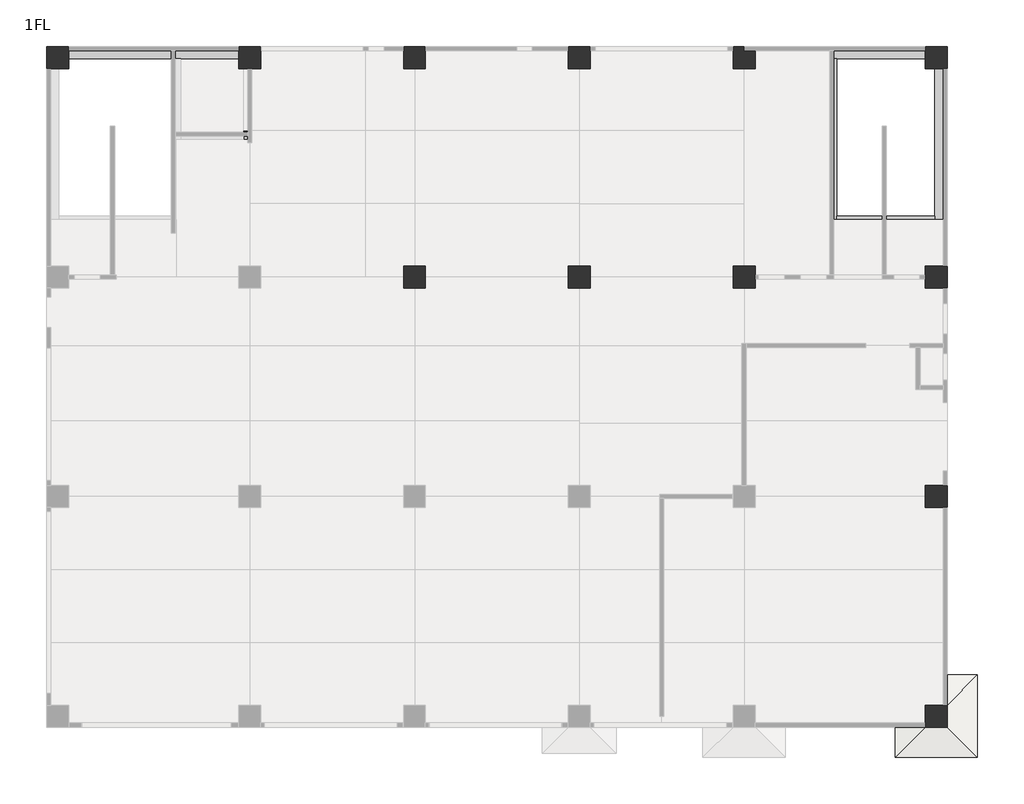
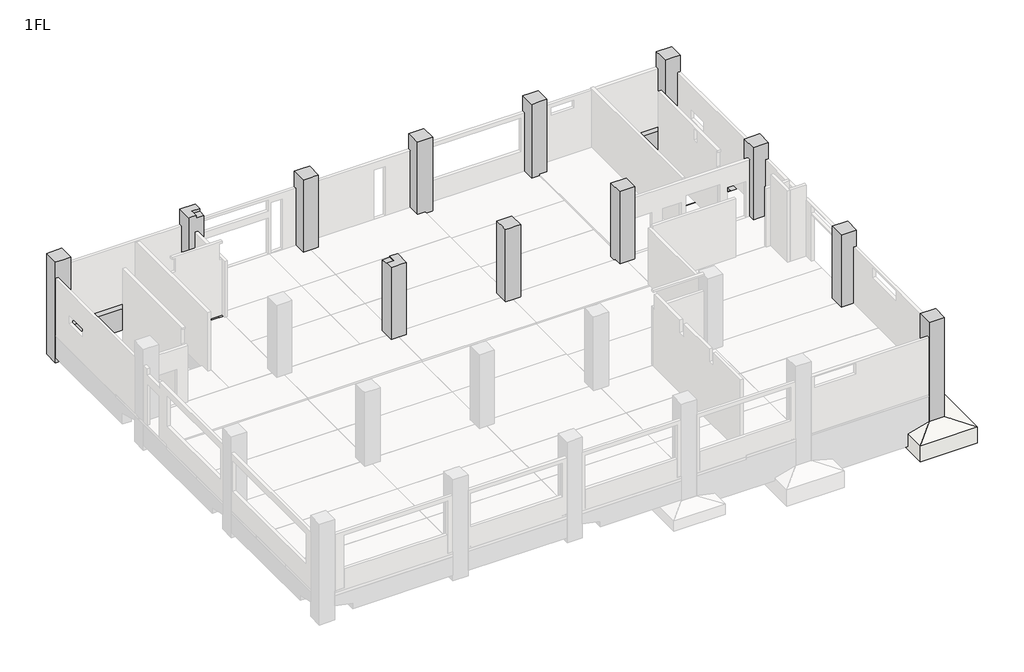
# One storey, part 4 of 4: 25 beams, 12 columns, 1 slab.
"""IFC4 building model written with IfcOpenShell, lengths in millimetres."""

import ifcopenshell
import ifcopenshell.guid

model = None  # the IFC model being written
_history = None  # IfcOwnerHistory: only IFC2X3 demands one
_inside = {}  # id of a spatial element -> (the spatial element, [elements in it])
_under = {}  # id of a project, library or spatial element -> (it, [spatial elements below it])
_declared = {}  # id of a project -> (the project, [libraries it declares])
_typed = {}  # id of a type object -> (the type object, [elements of that type])
_made_of = {}  # id of a material, layer set ... -> (it, [elements and type objects made of it])


def new_model(schema):
    """Start an empty IFC model of exactly this schema.

    Asked for "IFC4X3", IfcOpenShell would pick the latest addendum, in which some entities
    have other attributes; the version numbers below select the first issue.
    IFC2X3 requires an IfcOwnerHistory on every rooted entity: one is made here for all.
    """
    global model, _history
    if schema == "IFC4X3":
        model = ifcopenshell.file(schema_version=(4, 3, 0, 0))
    else:
        model = ifcopenshell.file(schema=schema)
    _inside.clear()
    _under.clear()
    _declared.clear()
    _typed.clear()
    _made_of.clear()
    _history = None
    if model.schema == "IFC2X3":
        org = make("IfcOrganization", Name="unknown")
        user = make(
            "IfcPersonAndOrganization",
            ThePerson=make("IfcPerson", FamilyName="unknown"),
            TheOrganization=org,
        )
        app = make(
            "IfcApplication",
            ApplicationDeveloper=org,
            Version="unknown",
            ApplicationFullName="unknown",
            ApplicationIdentifier="unknown",
        )
        _history = make(
            "IfcOwnerHistory",
            OwningUser=user,
            OwningApplication=app,
            ChangeAction="ADDED",
            CreationDate=0,
        )
    return model


def make(cls, **values):
    """One entity of the class cls with the attributes given. An attribute that is None is left unset."""
    return model.create_entity(
        cls, **{name: value for name, value in values.items() if value is not None}
    )


def rooted(cls, **values):
    """An entity with a GlobalId (a new one), such as an element, a storey or a relation."""
    return make(cls, GlobalId=ifcopenshell.guid.new(), OwnerHistory=_history, **values)


def si_unit(unit_type, name, prefix=None):
    """IfcSIUnit, for example si_unit("LENGTHUNIT", "METRE", prefix="MILLI")."""
    return make("IfcSIUnit", UnitType=unit_type, Prefix=prefix, Name=name)


def assignment(units):
    """IfcUnitAssignment: the units of a project."""
    return None if units is None else make("IfcUnitAssignment", Units=units)


def point(xyz):
    """IfcCartesianPoint."""
    return None if xyz is None else make("IfcCartesianPoint", Coordinates=xyz)


def direction(xyz):
    """IfcDirection."""
    return None if xyz is None else make("IfcDirection", DirectionRatios=xyz)


def frame(location, z_axis=None, x_axis=None):
    """IfcAxis2Placement3D, a coordinate frame: its origin and axes. An axis left out is left unset."""
    return make(
        "IfcAxis2Placement3D",
        Location=point(location),
        Axis=direction(z_axis),
        RefDirection=direction(x_axis),
    )


def origin():
    """The frame at (0, 0, 0) with its axes left unset."""
    return frame((0.0, 0.0, 0.0))


def place(relative_to, where):
    """IfcLocalPlacement: puts the frame where relative to a parent placement (None: the world)."""
    return make(
        "IfcLocalPlacement", PlacementRelTo=relative_to, RelativePlacement=where
    )


def context(
    kind, dimensions, precision=None, world=None, true_north=None, identifier=None
):
    """IfcGeometricRepresentationContext, for example the 3D "Model" context."""
    return make(
        "IfcGeometricRepresentationContext",
        ContextIdentifier=identifier,
        ContextType=kind,
        CoordinateSpaceDimension=dimensions,
        Precision=precision,
        WorldCoordinateSystem=world,
        TrueNorth=true_north,
    )


def project(units=None, contexts=None):
    """IfcProject with its units and contexts."""
    return rooted(
        "IfcProject",
        Name="project",
        RepresentationContexts=contexts,
        UnitsInContext=assignment(units),
    )


def spatial(cls, under=None, at=None, **own):
    """A site, building, storey or space (cls), placed at a placement, below another one or the project."""
    s = rooted(cls, ObjectPlacement=at, **own)
    if under is not None:
        _under.setdefault(under.id(), (under, []))[1].append(s)
    return s


def polyline(points):
    """IfcPolyline through the points."""
    return make("IfcPolyline", Points=[point(p) for p in points])


def outline(outer, holes=None, kind="AREA"):
    """IfcArbitraryClosedProfileDef: a profile drawn as a closed curve; with holes, ...WithVoids."""
    if holes is None:
        return make("IfcArbitraryClosedProfileDef", ProfileType=kind, OuterCurve=outer)
    return make(
        "IfcArbitraryProfileDefWithVoids",
        ProfileType=kind,
        OuterCurve=outer,
        InnerCurves=holes,
    )


def extrude(swept, where, along, depth):
    """IfcExtrudedAreaSolid: the profile swept, set in the frame where, extruded along a direction by depth."""
    return make(
        "IfcExtrudedAreaSolid",
        SweptArea=swept,
        Position=where,
        ExtrudedDirection=direction(along),
        Depth=depth,
    )


def faces_of(points, faces, orient=None, outer=None):
    """IfcFace entities. A face is a list of loops; a loop is a list of indices into points, from 0.

    orient and outer hold one flag for each loop. By default every Orientation is true, the
    first loop of a face is its IfcFaceOuterBound and the others are IfcFaceBound.
    """
    made = []
    for i, loops in enumerate(faces):
        bounds = []
        for j, loop in enumerate(loops):
            is_outer = j == 0 if outer is None else outer[i][j]
            bounds.append(
                make(
                    "IfcFaceOuterBound" if is_outer else "IfcFaceBound",
                    Bound=make("IfcPolyLoop", Polygon=[points[k] for k in loop]),
                    Orientation=True if orient is None else orient[i][j],
                )
            )
        made.append(make("IfcFace", Bounds=bounds))
    return made


def faceted_brep(points, faces, orient=None, outer=None, voids=None):
    """IfcFacetedBrep: a solid bounded by flat faces; with voids (closed shells), ...WithVoids."""
    shared = [point(p) for p in points]
    hull = make("IfcClosedShell", CfsFaces=faces_of(shared, faces, orient, outer))
    if voids is None:
        return make("IfcFacetedBrep", Outer=hull)
    return make(
        "IfcFacetedBrepWithVoids",
        Outer=hull,
        Voids=[
            make(cls, CfsFaces=faces_of(shared, fs, o, b)) for cls, fs, o, b in voids
        ],
    )


def shape(context_of_items, identifier, shape_type, items):
    """IfcShapeRepresentation: the items that make up one representation, for example the "Body"."""
    return make(
        "IfcShapeRepresentation",
        ContextOfItems=context_of_items,
        RepresentationIdentifier=identifier,
        RepresentationType=shape_type,
        Items=items,
    )


def made_of(thing, what):
    """Note that an element or type object is made of a material, layer set ...; save() writes the relation."""
    if what is not None:
        _made_of.setdefault(what.id(), (what, []))[1].append(thing)
    return thing


def element(
    cls,
    number,
    at=None,
    inside=None,
    cuts=None,
    type_object=None,
    material=None,
    context=None,
    identifier="Body",
    shape_type=None,
    held_by="IfcProductDefinitionShape",
    body=None,
    shapes=None,
    **own,
):
    """One element of the class cls, such as IfcWall. Its Tag is "e" and its number.

    at: its placement. inside: the storey or other place that contains it. cuts: it is an
    opening in that element (IfcRelVoidsElement). A single representation is given by context,
    identifier, shape_type and body (its items); several are given by shapes. held_by: the class
    of the entity that holds the representations. save() writes the other relations.
    """
    e = rooted(cls, Tag="e%d" % number, ObjectPlacement=at, **own)
    if body is not None:
        shapes = [shape(context, identifier, shape_type, body)]
    if shapes is not None:
        e.Representation = make(held_by, Representations=shapes)
    if inside is not None:
        _inside.setdefault(inside.id(), (inside, []))[1].append(e)
    if cuts is not None:
        rooted(
            "IfcRelVoidsElement", RelatingBuildingElement=cuts, RelatedOpeningElement=e
        )
    if type_object is not None:
        _typed.setdefault(type_object.id(), (type_object, []))[1].append(e)
    return made_of(e, material)


def aggregate(whole, parts):
    """IfcRelAggregates: a whole, such as a stair, and the parts it consists of."""
    return rooted("IfcRelAggregates", RelatingObject=whole, RelatedObjects=parts)


def save(model, path):
    """Write the relations noted so far, then the file.

    IfcRelAggregates (storeys below a building ...), IfcRelContainedInSpatialStructure (elements
    in a storey), IfcRelDefinesByType, IfcRelAssociatesMaterial and IfcRelDeclares: one each for
    every whole, place, type object, material and project.
    """
    for whole, parts in _under.values():
        aggregate(whole, parts)
    for where, things in _inside.values():
        rooted(
            "IfcRelContainedInSpatialStructure",
            RelatedElements=things,
            RelatingStructure=where,
        )
    for kind, things in _typed.values():
        rooted("IfcRelDefinesByType", RelatedObjects=things, RelatingType=kind)
    for what, things in _made_of.values():
        rooted("IfcRelAssociatesMaterial", RelatedObjects=things, RelatingMaterial=what)
    for by, libraries in _declared.values():
        rooted("IfcRelDeclares", RelatingContext=by, RelatedDefinitions=libraries)
    model.write(path)


model = new_model("IFC4")

# Units and contexts
model_context = context("Model", 3, world=origin())
ifc_project = project(units=[si_unit("LENGTHUNIT", "METRE", prefix="MILLI")], contexts=[model_context])

# Site, building, storey
site = spatial("IfcSite", under=ifc_project)
building = spatial("IfcBuilding", under=site)
storey = spatial("IfcBuildingStorey", under=building, Name="1FL", Elevation=0.0)

# Beams
placement = place(None, origin())
element("IfcBeam", 1, ObjectType="RC_B : B1", at=placement, inside=storey, context=model_context, shape_type="Brep", body=[
    faceted_brep([(12775.0, 18845.0, -850.0), (11375.0, 18845.0, -850.0), (11025.0, 18845.0, -850.0), (7225.0, 18845.0, -850.0), (7225.0, 18845.0, -160.0), (11025.0, 18845.0, -160.0), (11375.0, 18845.0, -160.0), (12775.0, 18845.0, -160.0), (7225.0, 18495.0, -850.0), (12775.0, 18495.0, -850.0), (11375.0, 18495.0, -850.0), (11025.0, 18495.0, -850.0), (12775.0, 18495.0, -160.0), (11375.0, 18495.0, -160.0), (11025.0, 18495.0, -160.0), (7225.0, 18495.0, -160.0)], [[[0, 1, 2, 3, 4, 5, 6, 7]], [[8, 3, 2, 1, 0, 9, 10, 11]], [[8, 11, 10, 9, 12, 13, 14, 15]], [[3, 8, 15, 4]], [[9, 0, 7, 12]], [[4, 15, 14, 13, 12, 7, 6, 5]]]),
])
element("IfcBeam", 2, ObjectType="RC_B : B1", at=placement, inside=storey, context=model_context, shape_type="Brep", body=[
    faceted_brep([(12775.0, 21515.0, -850.0), (11375.0, 21515.0, -850.0), (11025.0, 21515.0, -850.0), (7225.0, 21515.0, -850.0), (7225.0, 21515.0, -160.0), (11025.0, 21515.0, -160.0), (11375.0, 21515.0, -160.0), (12775.0, 21515.0, -160.0), (7225.0, 21165.0, -850.0), (12775.0, 21165.0, -850.0), (11375.0, 21165.0, -850.0), (11025.0, 21165.0, -850.0), (12775.0, 21165.0, -160.0), (11375.0, 21165.0, -160.0), (11025.0, 21165.0, -160.0), (7225.0, 21165.0, -160.0)], [[[0, 1, 2, 3, 4, 5, 6, 7]], [[8, 3, 2, 1, 0, 9, 10, 11]], [[8, 11, 10, 9, 12, 13, 14, 15]], [[3, 8, 15, 4]], [[9, 0, 7, 12]], [[4, 15, 14, 13, 12, 7, 6, 5]]]),
])
element("IfcBeam", 3, ObjectType="RC_B : B1", at=placement, inside=storey, context=model_context, shape_type="Brep", body=[
    faceted_brep([(19225.0, 21515.0, -850.0), (18775.0, 21515.0, -850.0), (13225.0, 21515.0, -850.0), (12775.0, 21515.0, -850.0), (12775.0, 21515.0, -160.0), (13000.0, 21515.0, -160.0), (13000.0, 21515.0, -100.0), (19000.0, 21515.0, -100.0), (19000.0, 21515.0, -160.0), (19000.0, 21515.0, -250.0), (19225.0, 21515.0, -250.0), (12775.0, 21165.0, -850.0), (19225.0, 21165.0, -850.0), (18775.0, 21165.0, -850.0), (13225.0, 21165.0, -850.0), (19225.0, 21165.0, -250.0), (19000.0, 21165.0, -250.0), (19000.0, 21165.0, -160.0), (18775.0, 21165.0, -160.0), (13225.0, 21165.0, -160.0), (12775.0, 21165.0, -160.0), (13000.0, 21340.0, -100.0), (19000.0, 21340.0, -100.0), (19000.0, 21328.0, -250.0), (19000.0, 21340.0, -160.0), (13000.0, 21340.0, -160.0)], [[[0, 1, 2, 3, 4, 5, 6, 7, 8, 9, 10]], [[11, 3, 2, 1, 0, 12, 13, 14]], [[11, 14, 13, 12, 15, 16, 17, 18, 19, 20]], [[21, 22, 7, 6]], [[3, 11, 20, 4]], [[16, 15, 10, 9, 23]], [[9, 8, 7, 22, 24, 17, 16, 23]], [[12, 0, 10, 15]], [[24, 25, 5, 4, 20, 19, 18, 17]], [[25, 24, 22, 21]], [[5, 25, 21, 6]]]),
])
element("IfcBeam", 4, ObjectType="RC_B : B1", at=placement, inside=storey, context=model_context, shape_type="SweptSolid", body=[
    extrude(outline(polyline([(11375.0, 16225.0), (11025.0, 16225.0), (11025.0, 18495.0), (11375.0, 18495.0), (11375.0, 16225.0)])), frame((0.0, 0.0, -850.0), z_axis=(0.0, 0.0, 1.0), x_axis=(1.0, 0.0, 0.0)), (0.0, 0.0, 1.0), 690.0),
    extrude(outline(polyline([(11025.0, 23950.0), (11375.0, 23950.0), (11375.0, 21515.0), (11025.0, 21515.0), (11025.0, 23950.0)])), frame((0.0, 0.0, -850.0), z_axis=(0.0, 0.0, 1.0), x_axis=(1.0, 0.0, 0.0)), (0.0, 0.0, 1.0), 690.0),
    extrude(outline(polyline([(11375.0, 18845.0), (11025.0, 18845.0), (11025.0, 21165.0), (11375.0, 21165.0), (11375.0, 18845.0)])), frame((0.0, 0.0, -850.0), z_axis=(0.0, 0.0, 1.0), x_axis=(1.0, 0.0, 0.0)), (0.0, 0.0, 1.0), 690.0),
])
element("IfcBeam", 5, ObjectType="RC_B : B1", at=placement, inside=storey, context=model_context, shape_type="SweptSolid", body=[
    extrude(outline(polyline([(13225.0, 18495.0), (13225.0, 18845.0), (18775.0, 18845.0), (18775.0, 18495.0), (13225.0, 18495.0)])), frame((0.0, 0.0, -850.0), z_axis=(0.0, 0.0, 1.0), x_axis=(1.0, 0.0, 0.0)), (0.0, 0.0, 1.0), 690.0),
])
element("IfcBeam", 6, ObjectType="RC_B : B2", at=placement, inside=storey, context=model_context, shape_type="SweptSolid", body=[
    extrude(outline(polyline([(19225.0, 18495.0), (19225.0, 18845.0), (24775.0, 18845.0), (24775.0, 18495.0), (19225.0, 18495.0)])), frame((0.0, 0.0, -850.0), z_axis=(0.0, 0.0, 1.0), x_axis=(1.0, 0.0, 0.0)), (0.0, 0.0, 1.0), 600.0),
])
element("IfcBeam", 7, ObjectType="RC_B : B2", at=placement, inside=storey, context=model_context, shape_type="SweptSolid", body=[
    extrude(outline(polyline([(19225.0, 21165.0), (19225.0, 21515.0), (24775.0, 21515.0), (24775.0, 21165.0), (19225.0, 21165.0)])), frame((0.0, 0.0, -850.0), z_axis=(0.0, 0.0, 1.0), x_axis=(1.0, 0.0, 0.0)), (0.0, 0.0, 1.0), 600.0),
])
element("IfcBeam", 8, ObjectType="RC_B : B3", at=placement, inside=storey, context=model_context, shape_type="SweptSolid", body=[
    extrude(outline(polyline([(18225.0, -100.0), (18225.0, -700.0), (17975.0, -700.0), (17975.0, -160.0), (18100.0, -160.0), (18100.0, -100.0), (18225.0, -100.0)])), frame((28374.0, 0.0, 0.0), z_axis=(1.0, 0.0, 0.0), x_axis=(0.0, 1.0, 0.0)), (0.0, 0.0, 1.0), 3576.0),
])
element("IfcBeam", 9, ObjectType="RC_B : B4", at=placement, inside=storey, context=model_context, shape_type="Brep", body=[
    faceted_brep([(28024.0, 16225.0, -850.0), (28024.0, 16225.0, -160.0), (28024.0, 23950.0, -160.0), (28024.0, 23950.0, -850.0), (28374.0, 16225.0, -850.0), (28374.0, 23950.0, -850.0), (28374.0, 23950.0, -100.0), (28374.0, 18225.0, -100.0), (28374.0, 18100.0, -100.0), (28374.0, 18100.0, -160.0), (28374.0, 17975.0, -160.0), (28374.0, 16225.0, -160.0), (28199.0, 23950.0, -100.0), (28199.0, 18100.0, -100.0), (28199.0, 23950.0, -160.0), (28199.0, 18100.0, -160.0)], [[[0, 1, 2, 3]], [[4, 0, 3, 5]], [[5, 6, 7, 8, 9, 10, 11, 4]], [[6, 12, 13, 8, 7]], [[0, 4, 11, 1]], [[5, 3, 2, 14, 12, 6]], [[2, 1, 11, 10, 9, 15, 14]], [[12, 14, 15, 13]], [[15, 9, 8, 13]]]),
])
element("IfcBeam", 10, ObjectType="RC_B : FG1", at=placement, inside=storey, context=model_context, shape_type="Brep", body=[
    faceted_brep([(6600.0, 24400.0, -100.0), (6600.0, 24400.0, -1300.0), (1500.0, 24400.0, -1300.0), (1500.0, 24400.0, -700.0), (400.0, 24400.0, -400.0), (400.0, 24400.0, -100.0), (6600.0, 23950.0, -1300.0), (1500.0, 23950.0, -1300.0), (6600.0, 23950.0, -100.0), (4494.0, 23950.0, -100.0), (4144.0, 23950.0, -100.0), (400.0, 23950.0, -100.0), (400.0, 23950.0, -400.0), (1500.0, 23950.0, -700.0), (400.0, 24250.0, -100.0), (6600.0, 24250.0, -100.0)], [[[0, 1, 2, 3, 4, 5]], [[1, 6, 7, 2]], [[6, 8, 9, 10, 11, 12, 13, 7]], [[5, 14, 11, 10, 9, 8, 15, 0]], [[11, 14, 5, 4, 12]], [[1, 0, 15, 8, 6]], [[13, 3, 2, 7]], [[3, 13, 12, 4]]]),
])
element("IfcBeam", 11, ObjectType="RC_B : FG11", at=placement, inside=storey, context=model_context, shape_type="Brep", body=[
    faceted_brep([(31950.0, 16400.0, -1300.0), (31950.0, 16400.0, -160.0), (31950.0, 17975.0, -160.0), (31950.0, 18100.0, -160.0), (31950.0, 18100.0, -100.0), (31950.0, 18225.0, -100.0), (31950.0, 23600.0, -100.0), (31950.0, 23600.0, -1300.0), (32400.0, 16400.0, -1300.0), (32400.0, 23600.0, -1300.0), (32400.0, 16400.0, -160.0), (32400.0, 23600.0, -100.0), (32400.0, 18100.0, -100.0), (32400.0, 18100.0, -160.0), (32250.0, 18100.0, -100.0), (32250.0, 23600.0, -100.0)], [[[0, 1, 2, 3, 4, 5, 6, 7]], [[8, 0, 7, 9]], [[10, 8, 9, 11, 12, 13]], [[4, 14, 12, 11, 15, 6, 5]], [[1, 0, 8, 10]], [[13, 3, 2, 1, 10]], [[3, 13, 12, 14, 4]], [[7, 6, 15, 11, 9]]]),
])
element("IfcBeam", 12, ObjectType="RC_B : FG13", at=placement, inside=storey, context=model_context, shape_type="Brep", body=[
    faceted_brep([(6775.0, 16400.0, -160.0), (6775.0, 21000.0, -160.0), (6775.0, 21000.0, -100.0), (6775.0, 21125.0, -100.0), (6775.0, 21333.0, -100.0), (6775.0, 21333.0, -160.0), (6775.0, 23600.0, -160.0), (6775.0, 23600.0, -1450.0), (6775.0, 22500.0, -1750.0), (6775.0, 22500.0, -1950.0), (6775.0, 17650.0, -1950.0), (6775.0, 17650.0, -1250.0), (6775.0, 16400.0, -950.0), (7000.0, 17650.0, -1950.0), (7000.0, 22500.0, -1950.0), (7225.0, 23600.0, -160.0), (7225.0, 21515.0, -160.0), (7225.0, 21165.0, -160.0), (7225.0, 18845.0, -160.0), (7225.0, 18495.0, -160.0), (7225.0, 16400.0, -160.0), (7225.0, 16400.0, -950.0), (7225.0, 17650.0, -1250.0), (7225.0, 17650.0, -1750.0), (7225.0, 22500.0, -1750.0), (7225.0, 23600.0, -1450.0), (7000.0, 21000.0, -100.0), (7000.0, 21333.0, -100.0), (7000.0, 16400.0, -160.0), (7000.0, 17650.0, -1750.0), (7000.0, 22500.0, -1750.0), (7000.0, 21000.0, -160.0), (7000.0, 21333.0, -160.0)], [[[0, 1, 2, 3, 4, 5, 6, 7, 8, 9, 10, 11, 12]], [[13, 10, 9, 14]], [[15, 16, 17, 18, 19, 20, 21, 22, 23, 24, 25]], [[2, 26, 27, 4, 3]], [[20, 28, 0, 12, 21]], [[23, 29, 30, 24]], [[29, 13, 14, 30]], [[31, 1, 0, 28, 20, 19, 18, 17, 16, 15, 6, 5, 32]], [[1, 31, 26, 2]], [[31, 32, 27, 26]], [[27, 32, 5, 4]], [[7, 6, 15, 25]], [[22, 11, 10, 13, 29, 23]], [[11, 22, 21, 12]], [[8, 30, 14, 9]], [[30, 8, 7, 25, 24]]]),
])
element("IfcBeam", 13, ObjectType="RC_B : FG13", at=placement, inside=storey, context=model_context, shape_type="Brep", body=[
    faceted_brep([(12775.0, 23600.0, -160.0), (12775.0, 23600.0, -1750.0), (12775.0, 17650.0, -1750.0), (12775.0, 17650.0, -1250.0), (12775.0, 16400.0, -950.0), (12775.0, 16400.0, -160.0), (12775.0, 18495.0, -160.0), (12775.0, 18845.0, -160.0), (12775.0, 21165.0, -160.0), (12775.0, 21165.0, -850.0), (12775.0, 21515.0, -850.0), (12775.0, 21515.0, -160.0), (13000.0, 23600.0, -1950.0), (13225.0, 23600.0, -1950.0), (13225.0, 17650.0, -1950.0), (13000.0, 17650.0, -1950.0), (13225.0, 23600.0, -160.0), (13225.0, 21515.0, -160.0), (13225.0, 21515.0, -850.0), (13225.0, 21165.0, -850.0), (13225.0, 21165.0, -160.0), (13225.0, 18845.0, -160.0), (13225.0, 18495.0, -160.0), (13225.0, 16400.0, -160.0), (13225.0, 16400.0, -950.0), (13225.0, 17650.0, -1250.0), (13000.0, 16400.0, -160.0), (13000.0, 23600.0, -1750.0), (13000.0, 17650.0, -1750.0), (13000.0, 21515.0, -160.0)], [[[0, 1, 2, 3, 4, 5, 6, 7, 8, 9, 10, 11]], [[12, 13, 14, 15]], [[13, 16, 17, 18, 19, 20, 21, 22, 23, 24, 25, 14]], [[23, 26, 5, 4, 24]], [[1, 27, 28, 2]], [[27, 12, 15, 28]], [[5, 26, 23, 22, 21, 20, 8, 7, 6]], [[16, 13, 12, 27, 1, 0]], [[25, 3, 2, 28, 15, 14]], [[3, 25, 24, 4]], [[10, 18, 17, 29, 11]], [[18, 10, 9, 19]], [[19, 9, 8, 20]], [[16, 0, 11, 29, 17]]]),
])
element("IfcBeam", 14, ObjectType="RC_B : FG13", at=placement, inside=storey, context=model_context, shape_type="Brep", body=[
    faceted_brep([(18775.0, 23600.0, -1750.0), (18775.0, 17650.0, -1750.0), (18775.0, 17650.0, -1250.0), (18775.0, 16400.0, -950.0), (18775.0, 16400.0, -160.0), (18775.0, 18495.0, -160.0), (18775.0, 18845.0, -160.0), (18775.0, 21165.0, -160.0), (18775.0, 21165.0, -850.0), (18775.0, 21515.0, -850.0), (18775.0, 21515.0, -160.0), (18775.0, 23600.0, -160.0), (19225.0, 23600.0, -1750.0), (19225.0, 23600.0, -250.0), (19225.0, 21515.0, -250.0), (19225.0, 21515.0, -850.0), (19225.0, 21165.0, -850.0), (19225.0, 21165.0, -250.0), (19225.0, 18845.0, -250.0), (19225.0, 18495.0, -250.0), (19225.0, 16400.0, -250.0), (19225.0, 16400.0, -950.0), (19225.0, 17650.0, -1250.0), (19225.0, 17650.0, -1750.0), (19000.0, 16400.0, -250.0), (19000.0, 16400.0, -160.0), (19000.0, 21165.0, -250.0), (19000.0, 18664.0, -250.0), (19000.0, 21165.0, -160.0), (19000.0, 18670.0, -160.0), (19000.0, 23600.0, -160.0), (19000.0, 23600.0, -250.0), (19000.0, 21515.0, -160.0), (19000.0, 21515.0, -250.0)], [[[0, 1, 2, 3, 4, 5, 6, 7, 8, 9, 10, 11]], [[12, 13, 14, 15, 16, 17, 18, 19, 20, 21, 22, 23]], [[20, 24, 25, 4, 3, 21]], [[24, 20, 19, 18, 17, 26, 27]], [[25, 24, 27, 26, 28, 29]], [[0, 12, 23, 1]], [[13, 12, 0, 11, 30, 31]], [[22, 2, 1, 23]], [[2, 22, 21, 3]], [[30, 11, 10, 32]], [[9, 15, 14, 33, 32, 10]], [[15, 9, 8, 16]], [[16, 8, 7, 28, 26, 17]], [[13, 31, 33, 14]], [[31, 30, 32, 33]], [[4, 25, 29, 28, 7, 6, 5]]]),
])
element("IfcBeam", 15, ObjectType="RC_B : FG13", at=placement, inside=storey, context=model_context, shape_type="Brep", body=[
    faceted_brep([(24775.0, 16400.0, -250.0), (24775.0, 18495.0, -250.0), (24775.0, 18845.0, -250.0), (24775.0, 21165.0, -250.0), (24775.0, 21515.0, -250.0), (24775.0, 23600.0, -250.0), (24775.0, 23600.0, -1750.0), (24775.0, 17441.6666667, -1750.0), (24775.0, 16400.0, -1500.0), (25225.0, 23600.0, -1750.0), (25225.0, 23600.0, -160.0), (25225.0, 16400.0, -160.0), (25225.0, 16400.0, -1500.0), (25225.0, 17441.6666667, -1750.0), (25000.0, 16400.0, -250.0), (25000.0, 16400.0, -160.0), (25000.0, 18664.0, -250.0), (25000.0, 21328.0, -250.0), (25000.0, 23600.0, -250.0), (25000.0, 23600.0, -160.0)], [[[0, 1, 2, 3, 4, 5, 6, 7, 8]], [[9, 10, 11, 12, 13]], [[14, 0, 8, 12, 11, 15]], [[0, 14, 16, 17, 18, 5, 4, 3, 2, 1]], [[14, 15, 19, 18, 17, 16]], [[6, 9, 13, 7]], [[15, 11, 10, 19]], [[10, 9, 6, 5, 18, 19]], [[8, 7, 13, 12]]]),
])
element("IfcBeam", 16, ObjectType="RC_B : FG14", at=placement, inside=storey, context=model_context, shape_type="Brep", body=[
    faceted_brep([(31950.0, 400.0, -160.0), (31950.0, 2485.0, -160.0), (31950.0, 2835.0, -160.0), (31950.0, 5155.0, -160.0), (31950.0, 5505.0, -160.0), (31950.0, 7600.0, -160.0), (31950.0, 7600.0, -2300.0), (31950.0, 1500.0, -2300.0), (31950.0, 1500.0, -1800.0), (31950.0, 400.0, -1500.0), (32000.0, 7600.0, -2500.0), (32400.0, 7600.0, -2500.0), (32400.0, 1500.0, -2500.0), (32000.0, 1500.0, -2500.0), (32400.0, 7600.0, -160.0), (32400.0, 5328.0, -160.0), (32400.0, 2664.0, -160.0), (32400.0, 400.0, -160.0), (32400.0, 400.0, -1500.0), (32400.0, 1500.0, -1800.0), (32000.0, 7600.0, -2300.0), (32000.0, 1500.0, -2300.0)], [[[0, 1, 2, 3, 4, 5, 6, 7, 8, 9]], [[10, 11, 12, 13]], [[11, 14, 15, 16, 17, 18, 19, 12]], [[17, 0, 9, 18]], [[5, 14, 11, 10, 20, 6]], [[14, 5, 4, 3, 2, 1, 0, 17, 16, 15]], [[6, 20, 21, 7]], [[20, 10, 13, 21]], [[19, 8, 7, 21, 13, 12]], [[8, 19, 18, 9]]]),
])
element("IfcBeam", 17, ObjectType="RC_B : FG14", at=placement, inside=storey, context=model_context, shape_type="Brep", body=[
    faceted_brep([(31950.0, 8400.0, -160.0), (31950.0, 10575.0, -160.0), (31950.0, 10925.0, -160.0), (31950.0, 13325.0, -160.0), (31950.0, 13675.0, -160.0), (31950.0, 15600.0, -160.0), (31950.0, 15600.0, -2300.0), (31950.0, 9500.0, -2300.0), (31950.0, 9500.0, -1800.0), (31950.0, 8400.0, -1500.0), (32000.0, 15600.0, -2500.0), (32400.0, 15600.0, -2500.0), (32400.0, 9500.0, -2500.0), (32000.0, 9500.0, -2500.0), (32400.0, 15600.0, -160.0), (32400.0, 13496.0, -160.0), (32400.0, 10748.0, -160.0), (32400.0, 8400.0, -160.0), (32400.0, 8400.0, -1500.0), (32400.0, 9500.0, -1800.0), (32000.0, 15600.0, -2300.0), (32000.0, 9500.0, -2300.0)], [[[0, 1, 2, 3, 4, 5, 6, 7, 8, 9]], [[10, 11, 12, 13]], [[14, 15, 16, 17, 18, 19, 12, 11]], [[17, 0, 9, 18]], [[5, 14, 11, 10, 20, 6]], [[14, 5, 4, 3, 2, 1, 0, 17, 16, 15]], [[6, 20, 21, 7]], [[20, 10, 13, 21]], [[19, 8, 7, 21, 13, 12]], [[8, 19, 18, 9]]]),
])
element("IfcBeam", 18, ObjectType="RC_B : FG3", at=placement, inside=storey, context=model_context, shape_type="Brep", body=[
    faceted_brep([(12600.0, 16225.0, -1750.0), (7400.0, 16225.0, -1750.0), (7400.0, 16225.0, -160.0), (11025.0, 16225.0, -160.0), (11375.0, 16225.0, -160.0), (12600.0, 16225.0, -160.0), (7400.0, 16000.0, -1950.0), (12600.0, 16000.0, -1950.0), (12600.0, 15775.0, -1950.0), (7400.0, 15775.0, -1950.0), (12600.0, 15775.0, -160.0), (7400.0, 15775.0, -160.0), (7400.0, 16000.0, -1750.0), (12600.0, 16000.0, -1750.0)], [[[0, 1, 2, 3, 4, 5]], [[6, 7, 8, 9]], [[10, 11, 9, 8]], [[11, 2, 1, 12, 6, 9]], [[5, 10, 8, 7, 13, 0]], [[1, 0, 13, 12]], [[7, 6, 12, 13]], [[11, 10, 5, 4, 3, 2]]]),
])
element("IfcBeam", 19, ObjectType="RC_B : FG3", at=placement, inside=storey, context=model_context, shape_type="Brep", body=[
    faceted_brep([(18600.0, 16225.0, -1950.0), (13400.0, 16225.0, -1950.0), (13400.0, 16225.0, -160.0), (18600.0, 16225.0, -160.0), (13400.0, 15775.0, -1950.0), (18600.0, 15775.0, -1950.0), (18600.0, 15775.0, -160.0), (13400.0, 15775.0, -160.0), (13400.0, 16000.0, -160.0), (18600.0, 16000.0, -160.0)], [[[0, 1, 2, 3]], [[4, 1, 0, 5]], [[6, 7, 4, 5]], [[7, 8, 2, 1, 4]], [[3, 9, 6, 5, 0]], [[7, 6, 9, 3, 2, 8]]]),
])
element("IfcBeam", 20, ObjectType="RC_B : FG3", at=placement, inside=storey, context=model_context, shape_type="Brep", body=[
    faceted_brep([(19400.0, 16225.0, -250.0), (24600.0, 16225.0, -250.0), (24600.0, 16225.0, -1750.0), (20650.0, 16225.0, -1750.0), (20650.0, 16225.0, -1250.0), (19400.0, 16225.0, -950.0), (24600.0, 16000.0, -1950.0), (24600.0, 15775.0, -1950.0), (20650.0, 15775.0, -1950.0), (20650.0, 16000.0, -1950.0), (24600.0, 15775.0, -160.0), (19400.0, 15775.0, -160.0), (19400.0, 15775.0, -950.0), (20650.0, 15775.0, -1250.0), (19400.0, 16000.0, -250.0), (19400.0, 16000.0, -160.0), (24600.0, 16000.0, -250.0), (24600.0, 16000.0, -160.0), (24600.0, 16000.0, -1750.0), (20650.0, 16000.0, -1750.0)], [[[0, 1, 2, 3, 4, 5]], [[6, 7, 8, 9]], [[10, 11, 12, 13, 8, 7]], [[14, 0, 5, 12, 11, 15]], [[1, 16, 17, 10, 7, 6, 18, 2]], [[14, 16, 1, 0]], [[16, 14, 15, 17]], [[2, 18, 19, 3]], [[18, 6, 9, 19]], [[11, 10, 17, 15]], [[13, 4, 3, 19, 9, 8]], [[4, 13, 12, 5]]]),
])
element("IfcBeam", 21, ObjectType="RC_B : FG3", at=placement, inside=storey, context=model_context, shape_type="Brep", body=[
    faceted_brep([(7400.0, 24400.0, -1450.0), (7400.0, 24400.0, -160.0), (11200.0, 24400.0, -160.0), (12600.0, 24400.0, -160.0), (12600.0, 24400.0, -1350.0), (11650.0, 24400.0, -1550.0), (11650.0, 24400.0, -1950.0), (8500.0, 24400.0, -1950.0), (8500.0, 24400.0, -1750.0), (11650.0, 24000.0, -1950.0), (8500.0, 24000.0, -1950.0), (7400.0, 23950.0, -160.0), (7400.0, 23950.0, -1450.0), (8500.0, 23950.0, -1750.0), (11650.0, 23950.0, -1750.0), (11650.0, 23950.0, -1550.0), (12600.0, 23950.0, -1350.0), (12600.0, 23950.0, -160.0), (11375.0, 23950.0, -160.0), (11025.0, 23950.0, -160.0), (11650.0, 24000.0, -1750.0), (8500.0, 24000.0, -1750.0)], [[[0, 1, 2, 3, 4, 5, 6, 7, 8]], [[6, 9, 10, 7]], [[11, 12, 13, 14, 15, 16, 17, 18, 19]], [[20, 14, 13, 21]], [[9, 20, 21, 10]], [[1, 11, 19, 18, 17, 3, 2]], [[1, 0, 12, 11]], [[3, 17, 16, 4]], [[5, 15, 14, 20, 9, 6]], [[15, 5, 4, 16]], [[21, 8, 7, 10]], [[8, 21, 13, 12, 0]]]),
])
element("IfcBeam", 22, ObjectType="RC_B : FG3", at=placement, inside=storey, context=model_context, shape_type="SweptSolid", body=[
    extrude(outline(polyline([(13400.0, 23950.0), (13400.0, 24400.0), (18600.0, 24400.0), (18600.0, 23950.0), (13400.0, 23950.0)])), frame((0.0, 0.0, -1950.0), z_axis=(0.0, 0.0, 1.0), x_axis=(1.0, 0.0, 0.0)), (0.0, 0.0, 1.0), 1790.0),
])
element("IfcBeam", 23, ObjectType="RC_B : FG3", at=placement, inside=storey, context=model_context, shape_type="SweptSolid", body=[
    extrude(outline(polyline([(24400.0, -250.0), (24400.0, -1950.0), (24000.0, -1950.0), (24000.0, -1750.0), (23950.0, -1750.0), (23950.0, -250.0), (24400.0, -250.0)])), frame((19400.0, 0.0, 0.0), z_axis=(1.0, 0.0, 0.0), x_axis=(0.0, 1.0, 0.0)), (0.0, 0.0, 1.0), 5200.0),
])
element("IfcBeam", 24, ObjectType="RC_B : FG3", at=placement, inside=storey, context=model_context, shape_type="Brep", body=[
    faceted_brep([(25400.0, 24400.0, -1950.0), (25400.0, 24400.0, -160.0), (28199.0, 24400.0, -160.0), (28199.0, 24400.0, -100.0), (31600.0, 24400.0, -100.0), (31600.0, 24400.0, -1950.0), (28374.0, 23950.0, -1950.0), (28374.0, 24000.0, -1950.0), (25400.0, 24000.0, -1950.0), (31600.0, 23950.0, -1950.0), (28199.0, 23950.0, -100.0), (28199.0, 23950.0, -160.0), (28024.0, 23950.0, -160.0), (25400.0, 23950.0, -160.0), (25400.0, 23950.0, -1750.0), (28374.0, 23950.0, -1750.0), (31600.0, 23950.0, -100.0), (28374.0, 23950.0, -100.0), (28199.0, 24250.0, -100.0), (31600.0, 24250.0, -100.0), (28374.0, 24000.0, -1750.0), (25400.0, 24000.0, -1750.0)], [[[0, 1, 2, 3, 4, 5]], [[6, 7, 8, 0, 5, 9]], [[10, 11, 12, 13, 14, 15, 6, 9, 16, 17]], [[3, 18, 10, 17, 16, 19, 4]], [[11, 2, 1, 13, 12]], [[2, 11, 10, 18, 3]], [[20, 15, 14, 21]], [[7, 20, 21, 8]], [[20, 7, 6, 15]], [[1, 0, 8, 21, 14, 13]], [[5, 4, 19, 16, 9]]]),
])
element("IfcBeam", 25, ObjectType="RC_B : FG4", at=placement, inside=storey, context=model_context, shape_type="Brep", body=[
    faceted_brep([(25400.0, 16225.0, -160.0), (28024.0, 16225.0, -160.0), (28374.0, 16225.0, -160.0), (31600.0, 16225.0, -160.0), (31600.0, 16225.0, -2500.0), (25400.0, 16225.0, -2500.0), (25400.0, 16225.0, -1950.0), (28374.0, 16225.0, -1950.0), (28374.0, 16225.0, -1750.0), (25400.0, 16225.0, -1750.0), (31600.0, 16000.0, -2500.0), (25400.0, 16000.0, -2500.0), (31600.0, 15775.0, -160.0), (25400.0, 15775.0, -160.0), (25400.0, 15775.0, -2300.0), (31600.0, 15775.0, -2300.0), (25400.0, 16000.0, -160.0), (25400.0, 16000.0, -1750.0), (25400.0, 16000.0, -1950.0), (25400.0, 16000.0, -2300.0), (31600.0, 16000.0, -160.0), (31600.0, 16000.0, -2300.0), (28374.0, 16000.0, -1950.0), (28374.0, 16000.0, -1750.0)], [[[0, 1, 2, 3, 4, 5, 6, 7, 8, 9]], [[10, 11, 5, 4]], [[12, 13, 14, 15]], [[13, 16, 0, 9, 17, 18, 6, 5, 11, 19, 14]], [[3, 20, 12, 15, 21, 10, 4]], [[13, 12, 20, 3, 2, 1, 0, 16]], [[15, 14, 19, 21]], [[11, 10, 21, 19]], [[22, 7, 6, 18]], [[23, 17, 9, 8]], [[23, 22, 18, 17]], [[22, 23, 8, 7]]]),
])

# Columns
element("IfcColumn", 26, ObjectType="RC_C_B : 1C1", at=placement, inside=storey, context=model_context, shape_type="Brep", body=[
    faceted_brep([(32400.0, 8400.0, -2700.0), (32400.0, 7600.0, -2700.0), (31600.0, 7600.0, -2700.0), (31600.0, 8400.0, -2700.0), (32400.0, 8400.0, -1500.0), (32400.0, 8400.0, -160.0), (32400.0, 8400.0, -10.0), (32400.0, 8400.0, 3100.0), (32400.0, 8400.0, 3940.0), (32400.0, 8400.0, 4000.0), (32400.0, 7600.0, 4000.0), (32400.0, 7600.0, 3940.0), (32400.0, 7600.0, 3100.0), (32400.0, 7600.0, -10.0), (32400.0, 7600.0, -160.0), (32400.0, 7600.0, -2500.0), (31600.0, 7600.0, 4000.0), (31600.0, 7600.0, 3940.0), (31600.0, 7600.0, -10.0), (31600.0, 7600.0, -160.0), (31600.0, 7600.0, -2300.0), (31950.0, 7600.0, -2300.0), (32000.0, 7600.0, -2300.0), (32000.0, 7600.0, -2500.0), (31600.0, 7600.0, -2500.0), (31600.0, 8400.0, 4000.0), (31600.0, 8400.0, 3940.0), (31600.0, 8400.0, -10.0), (31600.0, 8400.0, -160.0), (31600.0, 8400.0, -2300.0), (31600.0, 8225.0, -2300.0), (31600.0, 7775.0, -2300.0), (31600.0, 8400.0, -2500.0), (32000.0, 8400.0, -2500.0), (32000.0, 8400.0, -2300.0), (32000.0, 8000.0, -2500.0), (32000.0, 8000.0, -2300.0)], [[[0, 1, 2, 3]], [[1, 0, 4, 5, 6, 7, 8, 9, 10, 11, 12, 13, 14, 15]], [[2, 1, 15, 14, 13, 12, 11, 10, 16, 17, 18, 19, 20, 21, 22, 23, 24]], [[16, 25, 26, 27, 28, 29, 30, 31, 20, 19, 18, 17]], [[0, 3, 32, 33, 34, 29, 28, 27, 26, 25, 9, 8, 7, 6, 5, 4]], [[10, 9, 25, 16]], [[33, 32, 24, 23, 35]], [[22, 21, 20, 31, 30, 29, 34, 36]], [[33, 35, 23, 22, 36, 34]], [[3, 2, 24, 32]]]),
])
element("IfcColumn", 27, ObjectType="RC_C_B : 1C1", at=placement, inside=storey, context=model_context, shape_type="Brep", body=[
    faceted_brep([(13400.0, 16400.0, -2150.0), (13400.0, 15600.0, -2150.0), (12600.0, 15600.0, -2150.0), (12600.0, 16400.0, -2150.0), (13400.0, 16400.0, -1950.0), (13400.0, 16000.0, -1950.0), (13400.0, 16000.0, -1750.0), (13400.0, 16400.0, -1750.0), (13400.0, 16400.0, -160.0), (13400.0, 16400.0, -10.0), (13400.0, 16400.0, 3940.0), (13400.0, 16400.0, 4000.0), (13400.0, 15600.0, 4000.0), (13400.0, 15600.0, 3940.0), (13400.0, 15600.0, -10.0), (13400.0, 15600.0, -160.0), (13225.0, 15600.0, 4000.0), (12775.0, 15600.0, 4000.0), (12600.0, 15600.0, 4000.0), (12600.0, 15600.0, 3940.0), (12600.0, 15600.0, -10.0), (12600.0, 15600.0, -160.0), (12600.0, 16000.0, 4000.0), (12600.0, 16000.0, 3940.0), (12600.0, 16175.0, 3940.0), (12600.0, 16400.0, 3940.0), (12600.0, 16400.0, -10.0), (12600.0, 16400.0, -160.0), (12600.0, 16400.0, -1750.0), (12600.0, 16225.0, -1750.0), (12600.0, 16000.0, -1750.0), (12600.0, 16000.0, -1950.0), (12600.0, 16400.0, -1950.0), (13000.0, 16400.0, 4000.0), (13000.0, 16400.0, 3940.0), (13000.0, 16000.0, 4000.0), (13000.0, 16000.0, 3940.0)], [[[0, 1, 2, 3]], [[1, 0, 4, 5, 6, 7, 8, 9, 10, 11, 12, 13, 14, 15]], [[2, 1, 15, 14, 13, 12, 16, 17, 18, 19, 20, 21]], [[3, 2, 21, 20, 19, 18, 22, 23, 24, 25, 26, 27, 28, 29, 30, 31, 32]], [[33, 11, 10, 9, 8, 7, 28, 27, 26, 25, 34]], [[12, 11, 33, 35, 22, 18, 17, 16]], [[36, 34, 25, 24, 23]], [[36, 23, 22, 35]], [[34, 36, 35, 33]], [[5, 4, 32, 31]], [[30, 29, 28, 7, 6]], [[5, 31, 30, 6]], [[0, 3, 32, 4]]]),
])
element("IfcColumn", 28, ObjectType="RC_C_B : 1C1", at=placement, inside=storey, context=model_context, shape_type="Brep", body=[
    faceted_brep([(19400.0, 16400.0, -2150.0), (19400.0, 15600.0, -2150.0), (18600.0, 15600.0, -2150.0), (18600.0, 16400.0, -2150.0), (19400.0, 16400.0, -1950.0), (19400.0, 16000.0, -1950.0), (19400.0, 16000.0, -1750.0), (19400.0, 16400.0, -1750.0), (19400.0, 16400.0, -250.0), (19400.0, 16400.0, -100.0), (19400.0, 16400.0, 3940.0), (19400.0, 16400.0, 4000.0), (19400.0, 15600.0, 4000.0), (19400.0, 15600.0, 3940.0), (19400.0, 15600.0, -10.0), (19400.0, 15600.0, -160.0), (19225.0, 15600.0, 4000.0), (18775.0, 15600.0, 4000.0), (18600.0, 15600.0, 4000.0), (18600.0, 15600.0, 3940.0), (18600.0, 15600.0, -10.0), (18600.0, 15600.0, -160.0), (18600.0, 16000.0, 4000.0), (18600.0, 16175.0, 4000.0), (18600.0, 16400.0, 4000.0), (18600.0, 16400.0, 3940.0), (18600.0, 16400.0, -10.0), (18600.0, 16000.0, -10.0), (18600.0, 16000.0, -160.0), (18600.0, 16225.0, -160.0), (18600.0, 16400.0, -160.0), (18600.0, 16400.0, -1750.0), (18600.0, 16000.0, -1750.0), (18600.0, 16000.0, -1950.0), (18600.0, 16400.0, -1950.0), (18775.0, 16400.0, -160.0), (19000.0, 16400.0, -160.0), (19000.0, 16400.0, -100.0), (19000.0, 16400.0, -10.0), (19000.0, 16000.0, -1950.0), (19000.0, 16000.0, -1750.0), (19000.0, 16000.0, -160.0), (19000.0, 16000.0, -10.0)], [[[0, 1, 2, 3]], [[1, 0, 4, 5, 6, 7, 8, 9, 10, 11, 12, 13, 14, 15]], [[2, 1, 15, 14, 13, 12, 16, 17, 18, 19, 20, 21]], [[3, 2, 21, 20, 19, 18, 22, 23, 24, 25, 26, 27, 28, 29, 30, 31, 32, 33, 34]], [[24, 11, 10, 9, 8, 7, 31, 30, 35, 36, 37, 38, 26, 25]], [[12, 11, 24, 23, 22, 18, 17, 16]], [[34, 33, 39, 5, 4]], [[32, 31, 7, 6, 40]], [[33, 32, 40, 6, 5, 39]], [[0, 3, 34, 4]], [[41, 36, 35, 30, 29, 28]], [[42, 27, 26, 38]], [[42, 41, 28, 27]], [[41, 42, 38, 37, 36]]]),
])
element("IfcColumn", 29, ObjectType="RC_C_B : 1C1", at=placement, inside=storey, context=model_context, shape_type="Brep", body=[
    faceted_brep([(25400.0, 16400.0, -2700.0), (25400.0, 15600.0, -2700.0), (24600.0, 15600.0, -2700.0), (24600.0, 16400.0, -2700.0), (25400.0, 16400.0, -1950.0), (25400.0, 16225.0, -1950.0), (25400.0, 16000.0, -1950.0), (25400.0, 16000.0, -1750.0), (25400.0, 16225.0, -1750.0), (25400.0, 16400.0, -1750.0), (25400.0, 16400.0, -160.0), (25400.0, 16400.0, -10.0), (25400.0, 16400.0, 3940.0), (25400.0, 16400.0, 4000.0), (25400.0, 15600.0, 4000.0), (25400.0, 15600.0, 3940.0), (25400.0, 15600.0, -10.0), (25400.0, 15600.0, -160.0), (25400.0, 15600.0, -2300.0), (25400.0, 15775.0, -2300.0), (25400.0, 16000.0, -2300.0), (25400.0, 16000.0, -2500.0), (25400.0, 15600.0, -2500.0), (24775.0, 15600.0, -2500.0), (24775.0, 15600.0, -2300.0), (25225.0, 15600.0, -2300.0), (24600.0, 15600.0, 4000.0), (24600.0, 15600.0, 3940.0), (24600.0, 15600.0, -10.0), (25000.0, 15600.0, -10.0), (25000.0, 15600.0, -160.0), (24775.0, 15600.0, -160.0), (24600.0, 15600.0, -160.0), (24600.0, 15775.0, -160.0), (24600.0, 16000.0, -160.0), (24600.0, 16000.0, -100.0), (24600.0, 16000.0, -10.0), (24600.0, 16400.0, 4000.0), (24600.0, 16400.0, 3940.0), (24600.0, 16400.0, -100.0), (24600.0, 16400.0, -250.0), (24600.0, 16400.0, -1750.0), (24600.0, 16225.0, -1750.0), (24600.0, 16000.0, -1750.0), (24600.0, 16000.0, -1950.0), (24600.0, 16400.0, -1950.0), (25000.0, 16000.0, -1950.0), (25000.0, 16000.0, -1750.0), (24775.0, 16000.0, -2500.0), (24775.0, 16000.0, -2300.0), (25000.0, 16000.0, -160.0), (25000.0, 16000.0, -10.0)], [[[0, 1, 2, 3]], [[1, 0, 4, 5, 6, 7, 8, 9, 10, 11, 12, 13, 14, 15, 16, 17, 18, 19, 20, 21, 22]], [[2, 1, 22, 23, 24, 25, 18, 17, 16, 15, 14, 26, 27, 28, 29, 30, 31, 32]], [[3, 2, 32, 33, 34, 35, 36, 28, 27, 26, 37, 38, 39, 40, 41, 42, 43, 44, 45]], [[37, 13, 12, 11, 10, 9, 41, 40, 39, 38]], [[14, 13, 37, 26]], [[45, 44, 46, 6, 5, 4]], [[43, 42, 41, 9, 8, 7, 47]], [[44, 43, 47, 7, 6, 46]], [[21, 48, 23, 22]], [[24, 49, 20, 19, 18, 25]], [[48, 49, 24, 23]], [[49, 48, 21, 20]], [[0, 3, 45, 4]], [[30, 50, 34, 33, 32, 31]], [[36, 51, 29, 28]], [[50, 51, 36, 35, 34]], [[51, 50, 30, 29]]]),
])
element("IfcColumn", 30, ObjectType="RC_C_B : 1C1", at=placement, inside=storey, context=model_context, shape_type="Brep", body=[
    faceted_brep([(32400.0, 16400.0, -2700.0), (32400.0, 15600.0, -2700.0), (31600.0, 15600.0, -2700.0), (31600.0, 16400.0, -2700.0), (32400.0, 16400.0, -1300.0), (32400.0, 16400.0, -160.0), (32400.0, 16400.0, -10.0), (32400.0, 16400.0, 3100.0), (32400.0, 16400.0, 3940.0), (32400.0, 16400.0, 4000.0), (32400.0, 15600.0, 4000.0), (32400.0, 15600.0, 3940.0), (32400.0, 15600.0, 3100.0), (32400.0, 15600.0, -10.0), (32400.0, 15600.0, -160.0), (32400.0, 15600.0, -2500.0), (31600.0, 15600.0, 4000.0), (31600.0, 15600.0, 3940.0), (31600.0, 15600.0, -10.0), (31600.0, 15600.0, -160.0), (31600.0, 15600.0, -2300.0), (31950.0, 15600.0, -2300.0), (32000.0, 15600.0, -2300.0), (32000.0, 15600.0, -2500.0), (31600.0, 15600.0, -2500.0), (31600.0, 16000.0, -2500.0), (31600.0, 16000.0, -2300.0), (31600.0, 15775.0, -2300.0), (31600.0, 16400.0, 4000.0), (31600.0, 16400.0, 3940.0), (31600.0, 16400.0, -10.0), (31600.0, 16400.0, -160.0), (32000.0, 16000.0, -2500.0), (32000.0, 16000.0, -2300.0)], [[[0, 1, 2, 3]], [[1, 0, 4, 5, 6, 7, 8, 9, 10, 11, 12, 13, 14, 15]], [[2, 1, 15, 14, 13, 12, 11, 10, 16, 17, 18, 19, 20, 21, 22, 23, 24]], [[3, 2, 24, 25, 26, 27, 20, 19, 18, 17, 16, 28, 29, 30, 31]], [[0, 3, 31, 30, 29, 28, 9, 8, 7, 6, 5, 4]], [[10, 9, 28, 16]], [[23, 32, 25, 24]], [[26, 33, 22, 21, 20, 27]], [[32, 33, 26, 25]], [[33, 32, 23, 22]]]),
])
element("IfcColumn", 31, ObjectType="RC_C_B : 1C1", at=placement, inside=storey, context=model_context, shape_type="Brep", body=[
    faceted_brep([(7400.0, 24400.0, -1450.0), (7400.0, 23600.0, -1450.0), (6600.0, 23600.0, -1450.0), (6600.0, 24400.0, -1450.0), (7400.0, 23600.0, -10.0), (7400.0, 24400.0, -10.0), (7400.0, 24400.0, 3150.0), (7400.0, 24400.0, 4000.0), (7400.0, 24000.0, 4000.0), (7400.0, 24000.0, 3850.0), (7400.0, 23600.0, 3850.0), (7400.0, 23600.0, -160.0), (7225.0, 23600.0, -160.0), (6775.0, 23600.0, -160.0), (6775.0, 23600.0, -10.0), (6925.0, 23600.0, -10.0), (7075.0, 23600.0, -10.0), (7225.0, 23600.0, 3850.0), (7000.0, 23600.0, 3850.0), (7000.0, 23600.0, 4000.0), (6775.0, 23600.0, 4000.0), (6600.0, 23600.0, 4000.0), (6600.0, 24050.0, 4000.0), (6600.0, 24400.0, 4000.0), (6600.0, 24400.0, 3150.0), (6600.0, 24400.0, -100.0), (6600.0, 24400.0, -1300.0), (6775.0, 24400.0, -10.0), (6775.0, 24400.0, -160.0), (7400.0, 24400.0, -160.0), (7000.0, 24000.0, 4000.0), (7400.0, 23950.0, -160.0), (7000.0, 24000.0, 3850.0)], [[[0, 1, 2, 3]], [[4, 5, 6, 7, 8, 9, 10]], [[2, 1, 11, 12, 13, 14, 15, 16, 4, 10, 17, 18, 19, 20, 21]], [[3, 2, 21, 22, 23, 24, 25, 26]], [[0, 3, 26, 25, 24, 23, 7, 6, 5, 27, 28, 29]], [[23, 22, 21, 20, 19, 30, 8, 7]], [[28, 13, 12, 11, 31, 29]], [[14, 27, 5, 4, 16, 15]], [[13, 28, 27, 14]], [[9, 32, 18, 17, 10]], [[32, 30, 19, 18]], [[30, 32, 9, 8]], [[1, 0, 29, 31, 11]]]),
])
element("IfcColumn", 32, ObjectType="RC_C_B : 1C1", at=placement, inside=storey, context=model_context, shape_type="Brep", body=[
    faceted_brep([(13400.0, 24400.0, -2150.0), (13400.0, 23600.0, -2150.0), (12600.0, 23600.0, -2150.0), (12600.0, 24400.0, -2150.0), (12600.0, 24400.0, -160.0), (12600.0, 23950.0, -160.0), (12600.0, 23600.0, -160.0), (12775.0, 23600.0, -160.0), (13225.0, 23600.0, -160.0), (13400.0, 23600.0, -160.0), (13400.0, 23950.0, -160.0), (13400.0, 24400.0, -160.0), (13000.0, 24400.0, -160.0), (12600.0, 23600.0, -1750.0), (12775.0, 23600.0, -1750.0), (13000.0, 23600.0, -1750.0), (13400.0, 23600.0, -1750.0), (12600.0, 24000.0, -1950.0), (12600.0, 23600.0, -1950.0), (13400.0, 23600.0, -1950.0), (13400.0, 24000.0, -1950.0), (13000.0, 24000.0, -1950.0), (13400.0, 24000.0, -1750.0), (12600.0, 24000.0, -1750.0), (13000.0, 24000.0, -1750.0), (13400.0, 24400.0, -1950.0), (12600.0, 24400.0, -1350.0)], [[[0, 1, 2, 3]], [[4, 5, 6, 7, 8, 9, 10, 11, 12]], [[9, 8, 7, 6, 13, 14, 15, 16]], [[17, 18, 19, 20, 21]], [[22, 16, 15, 14, 13, 23, 24]], [[17, 21, 20, 22, 24, 23]], [[2, 1, 19, 18]], [[1, 0, 25, 11, 10, 9, 16, 22, 20, 19]], [[3, 2, 18, 17, 23, 13, 6, 5, 4, 26]], [[0, 3, 26, 4, 12, 11, 25]]]),
    faceted_brep([(13400.0, 24400.0, 4000.0), (13400.0, 23600.0, 4000.0), (13400.0, 23600.0, 3940.0), (13400.0, 23600.0, -10.0), (13400.0, 24250.0, -10.0), (13400.0, 24400.0, -10.0), (13400.0, 24400.0, 3150.0), (13400.0, 24400.0, 3940.0), (13225.0, 23600.0, 4000.0), (13000.0, 23600.0, 4000.0), (12600.0, 23600.0, 4000.0), (12600.0, 23600.0, 3940.0), (12600.0, 23600.0, -10.0), (12600.0, 24050.0, 4000.0), (12600.0, 24400.0, 4000.0), (12600.0, 24400.0, 3150.0), (12600.0, 24400.0, -10.0), (13000.0, 24400.0, 4000.0), (13000.0, 24400.0, -10.0)], [[[0, 1, 2, 3, 4, 5, 6, 7]], [[1, 8, 9, 10, 11, 12, 3, 2]], [[10, 13, 14, 15, 16, 12, 11]], [[14, 17, 0, 7, 6, 5, 18, 16, 15]], [[1, 0, 17, 14, 13, 10, 9, 8]], [[12, 16, 18, 5, 4, 3]]]),
])
element("IfcColumn", 33, ObjectType="RC_C_B : 1C1", at=placement, inside=storey, context=model_context, shape_type="Brep", body=[
    faceted_brep([(19400.0, 24400.0, -2150.0), (19400.0, 23600.0, -2150.0), (18600.0, 23600.0, -2150.0), (18600.0, 24400.0, -2150.0), (19000.0, 24400.0, -250.0), (19000.0, 23600.0, -250.0), (19225.0, 23600.0, -250.0), (19400.0, 23600.0, -250.0), (19400.0, 23950.0, -250.0), (19400.0, 24400.0, -250.0), (19000.0, 24400.0, -160.0), (19000.0, 23600.0, -160.0), (19400.0, 24000.0, -1950.0), (19000.0, 24000.0, -1950.0), (18600.0, 24000.0, -1950.0), (18600.0, 23600.0, -1950.0), (19400.0, 23600.0, -1950.0), (18600.0, 24000.0, -1750.0), (19000.0, 24000.0, -1750.0), (19400.0, 24000.0, -1750.0), (19400.0, 23950.0, -1750.0), (19400.0, 23600.0, -1750.0), (19225.0, 23600.0, -1750.0), (18775.0, 23600.0, -1750.0), (18600.0, 23600.0, -1750.0), (19400.0, 24400.0, -1950.0), (18600.0, 23600.0, -160.0), (18775.0, 23600.0, -160.0), (18600.0, 24400.0, -160.0), (18600.0, 23950.0, -160.0), (18600.0, 24400.0, -1950.0)], [[[0, 1, 2, 3]], [[4, 5, 6, 7, 8, 9]], [[5, 4, 10, 11]], [[12, 13, 14, 15, 16]], [[17, 18, 19, 20, 21, 22, 23, 24]], [[14, 13, 12, 19, 18, 17]], [[1, 0, 25, 9, 8, 7, 21, 20, 19, 12, 16]], [[2, 1, 16, 15]], [[26, 27, 11, 10, 28, 29]], [[7, 6, 5, 11, 27, 26, 24, 23, 22, 21]], [[3, 2, 15, 14, 17, 24, 26, 29, 28, 30]], [[0, 3, 30, 28, 10, 4, 9, 25]]]),
    faceted_brep([(19400.0, 24400.0, 4000.0), (19400.0, 23600.0, 4000.0), (19400.0, 23600.0, 3940.0), (19400.0, 23600.0, -100.0), (19400.0, 24250.0, -100.0), (19400.0, 24400.0, -100.0), (19400.0, 24400.0, 3150.0), (19400.0, 24400.0, 3940.0), (19000.0, 23600.0, 4000.0), (18775.0, 23600.0, 4000.0), (18600.0, 23600.0, 4000.0), (18600.0, 23600.0, 3940.0), (18600.0, 23600.0, -10.0), (19000.0, 23600.0, -10.0), (19000.0, 23600.0, -100.0), (18600.0, 24400.0, 4000.0), (18600.0, 24400.0, 3940.0), (18600.0, 24400.0, 3150.0), (18600.0, 24400.0, -10.0), (18600.0, 24250.0, -10.0), (19000.0, 24400.0, 4000.0), (19000.0, 24400.0, -100.0), (19000.0, 24400.0, -10.0)], [[[0, 1, 2, 3, 4, 5, 6, 7]], [[1, 8, 9, 10, 11, 12, 13, 14, 3, 2]], [[10, 15, 16, 17, 18, 19, 12, 11]], [[15, 20, 0, 7, 6, 5, 21, 22, 18, 17, 16]], [[1, 0, 20, 15, 10, 9, 8]], [[5, 4, 3, 14, 21]], [[22, 13, 12, 19, 18]], [[13, 22, 21, 14]]]),
])
element("IfcColumn", 34, ObjectType="RC_C_B : 1C1", at=placement, inside=storey, context=model_context, shape_type="Brep", body=[
    faceted_brep([(25400.0, 24400.0, -2150.0), (25400.0, 23600.0, -2150.0), (24600.0, 23600.0, -2150.0), (24600.0, 24400.0, -2150.0), (25000.0, 23600.0, -250.0), (25000.0, 24400.0, -250.0), (24600.0, 24400.0, -250.0), (24600.0, 23950.0, -250.0), (24600.0, 23600.0, -250.0), (24775.0, 23600.0, -250.0), (25000.0, 23600.0, -160.0), (25000.0, 24400.0, -160.0), (25400.0, 23600.0, -160.0), (25400.0, 23950.0, -160.0), (25400.0, 24400.0, -160.0), (25225.0, 23600.0, -160.0), (24600.0, 23600.0, -1750.0), (24775.0, 23600.0, -1750.0), (25225.0, 23600.0, -1750.0), (25400.0, 23600.0, -1750.0), (24600.0, 24000.0, -1950.0), (24600.0, 23600.0, -1950.0), (25400.0, 23600.0, -1950.0), (25400.0, 24000.0, -1950.0), (25000.0, 24000.0, -1950.0), (25400.0, 24000.0, -1750.0), (25400.0, 23950.0, -1750.0), (24600.0, 23950.0, -1750.0), (24600.0, 24000.0, -1750.0), (25000.0, 24000.0, -1750.0), (25400.0, 24400.0, -1950.0), (24600.0, 24400.0, -1950.0)], [[[0, 1, 2, 3]], [[4, 5, 6, 7, 8, 9]], [[5, 4, 10, 11]], [[12, 13, 14, 11, 10, 15]], [[4, 9, 8, 16, 17, 18, 19, 12, 15, 10]], [[20, 21, 22, 23, 24]], [[25, 26, 19, 18, 17, 16, 27, 28, 29]], [[20, 24, 23, 25, 29, 28]], [[2, 1, 22, 21]], [[1, 0, 30, 14, 13, 12, 19, 26, 25, 23, 22]], [[3, 2, 21, 20, 28, 27, 16, 8, 7, 6, 31]], [[0, 3, 31, 6, 5, 11, 14, 30]]]),
    faceted_brep([(25400.0, 24400.0, 4000.0), (25400.0, 23600.0, 4000.0), (25400.0, 23600.0, 3940.0), (25400.0, 23600.0, -10.0), (25400.0, 24400.0, -10.0), (25400.0, 24400.0, 3150.0), (25400.0, 24400.0, 3940.0), (25000.0, 23600.0, 4000.0), (24600.0, 23600.0, 4000.0), (24600.0, 23600.0, 3940.0), (24600.0, 23600.0, -100.0), (25000.0, 23600.0, -100.0), (25000.0, 23600.0, -10.0), (24600.0, 24400.0, 4000.0), (24600.0, 24400.0, 3940.0), (24600.0, 24400.0, 3150.0), (24600.0, 24400.0, -100.0), (24600.0, 24250.0, -100.0), (25000.0, 24400.0, 4000.0), (25000.0, 24400.0, -10.0), (25000.0, 24400.0, -100.0)], [[[0, 1, 2, 3, 4, 5, 6]], [[1, 7, 8, 9, 10, 11, 12, 3, 2]], [[8, 13, 14, 15, 16, 17, 10, 9]], [[13, 18, 0, 6, 5, 4, 19, 20, 16, 15, 14]], [[1, 0, 18, 13, 8, 7]], [[11, 10, 17, 16, 20]], [[12, 19, 4, 3]], [[19, 12, 11, 20]]]),
])
element("IfcColumn", 35, ObjectType="RC_C_B : 1C2", at=placement, inside=storey, context=model_context, shape_type="Brep", body=[
    faceted_brep([(32400.0, 400.0, -2700.0), (32400.0, -400.0, -2700.0), (31600.0, -400.0, -2700.0), (31600.0, 400.0, -2700.0), (32400.0, 400.0, -1500.0), (32400.0, 400.0, -160.0), (32400.0, 400.0, -10.0), (32400.0, 400.0, 3100.0), (32400.0, 400.0, 3940.0), (32400.0, 400.0, 4000.0), (32400.0, -400.0, 4000.0), (31600.0, -400.0, 4000.0), (31600.0, -400.0, 3940.0), (31600.0, -400.0, 3150.0), (31600.0, -400.0, -10.0), (31600.0, -400.0, -100.0), (31600.0, -400.0, -2500.0), (31600.0, 400.0, 4000.0), (31600.0, 400.0, 3940.0), (31600.0, 400.0, -10.0), (31600.0, 400.0, -160.0), (31600.0, 400.0, -2300.0), (31600.0, 50.0, -2300.0), (31600.0, 0.0, -2300.0), (31600.0, 0.0, -2500.0), (31600.0, 400.0, -2500.0), (32000.0, 400.0, -2500.0), (32000.0, 400.0, -2300.0), (32000.0, 0.0, -2500.0), (32000.0, 0.0, -2300.0)], [[[0, 1, 2, 3]], [[1, 0, 4, 5, 6, 7, 8, 9, 10]], [[2, 1, 10, 11, 12, 13, 14, 15, 16]], [[3, 2, 16, 15, 14, 13, 12, 11, 17, 18, 19, 20, 21, 22, 23, 24, 25]], [[0, 3, 25, 26, 27, 21, 20, 19, 18, 17, 9, 8, 7, 6, 5, 4]], [[10, 9, 17, 11]], [[28, 26, 25, 24]], [[29, 23, 22, 21, 27]], [[29, 28, 24, 23]], [[28, 29, 27, 26]]]),
])
element("IfcColumn", 36, ObjectType="RC_C_B : 1C2", at=placement, inside=storey, context=model_context, shape_type="Brep", body=[
    faceted_brep([(400.0, 24400.0, -1600.0), (400.0, 23600.0, -1600.0), (-400.0, 23600.0, -1600.0), (-400.0, 24400.0, -1600.0), (400.0, 24400.0, 4000.0), (400.0, 24050.0, 4000.0), (400.0, 23600.0, 4000.0), (400.0, 24400.0, -400.0), (400.0, 24400.0, -100.0), (400.0, 24400.0, 3150.0), (-50.0, 23600.0, 4000.0), (-400.0, 23600.0, 4000.0), (-400.0, 23600.0, 3100.0), (-400.0, 23600.0, -100.0), (-400.0, 23600.0, -1300.0), (-400.0, 24400.0, 4000.0)], [[[0, 1, 2, 3]], [[4, 5, 6, 1, 0, 7, 8, 9]], [[6, 10, 11, 12, 13, 14, 2, 1]], [[11, 15, 3, 2, 14, 13, 12]], [[15, 4, 9, 8, 7, 0, 3]], [[4, 15, 11, 10, 6, 5]]]),
])
element("IfcColumn", 37, ObjectType="RC_C_B : 1C2", at=placement, inside=storey, context=model_context, shape_type="Brep", body=[
    faceted_brep([(32400.0, 24400.0, -2150.0), (32400.0, 23600.0, -2150.0), (31600.0, 23600.0, -2150.0), (31600.0, 24400.0, -2150.0), (32400.0, 24400.0, 4000.0), (32400.0, 23600.0, 4000.0), (32400.0, 23600.0, 3100.0), (32400.0, 23600.0, -100.0), (32400.0, 23600.0, -1300.0), (32050.0, 23600.0, 4000.0), (31600.0, 23600.0, 4000.0), (31600.0, 24050.0, 4000.0), (31600.0, 24400.0, 4000.0), (31600.0, 24400.0, 3150.0), (31600.0, 24400.0, -100.0), (31600.0, 24400.0, -1950.0)], [[[0, 1, 2, 3]], [[4, 5, 6, 7, 8, 1, 0]], [[5, 9, 10, 2, 1, 8, 7, 6]], [[10, 11, 12, 13, 14, 15, 3, 2]], [[12, 4, 0, 3, 15, 14, 13]], [[4, 12, 11, 10, 9, 5]]]),
])

# Slab
element("IfcSlab", 38, ObjectType="RC_F_Rec_taper : F2_t", at=placement, inside=storey, context=model_context, shape_type="Brep", body=[
    faceted_brep([(33500.0, 1500.0, -2700.0), (33500.0, -1500.0, -2700.0), (30500.0, -1500.0, -2700.0), (30500.0, 1500.0, -2700.0), (30500.0, 1500.0, -1800.0), (31950.0, 1500.0, -1800.0), (32400.0, 1500.0, -1800.0), (33500.0, 1500.0, -1800.0), (33500.0, -1500.0, -1800.0), (32400.0, 400.0, -1500.0), (31600.0, 400.0, -1500.0), (31600.0, -400.0, -1500.0), (32400.0, -400.0, -1500.0), (30500.0, -1500.0, -1800.0)], [[[0, 1, 2, 3]], [[0, 3, 4, 5, 6, 7]], [[1, 0, 7, 8]], [[9, 10, 11, 12]], [[3, 2, 13, 4]], [[2, 1, 8, 13]], [[10, 9, 7, 6, 5, 4]], [[11, 10, 4, 13]], [[12, 11, 13, 8]], [[9, 12, 8, 7]]]),
])

save(model, "model.ifc")
